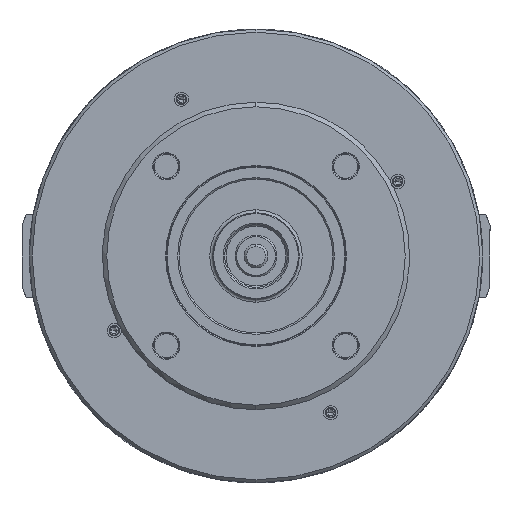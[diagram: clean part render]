
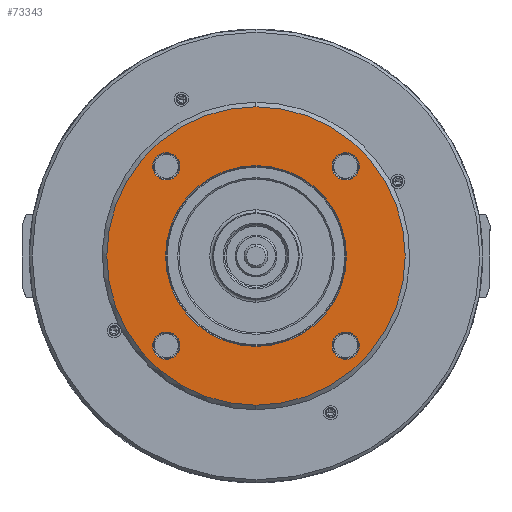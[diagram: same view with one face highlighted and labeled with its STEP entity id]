
A CAD part, left-side view. The second image highlights one B-rep face of the part: STEP entity #73343.
In plain terms, the highlighted planar face has unit normal (-1, 0, 0).
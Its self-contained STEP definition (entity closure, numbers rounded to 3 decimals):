
#168 = AXIS2_PLACEMENT_3D ( 'NONE', #29866, #53665, #28332 ) ;
#472 = DIRECTION ( 'NONE',  ( 0., 0., -1. ) ) ;
#3541 = VERTEX_POINT ( 'NONE', #17740 ) ;
#4386 = DIRECTION ( 'NONE',  ( -1., 0., 0. ) ) ;
#5233 = EDGE_LOOP ( 'NONE', ( #33444, #20236 ) ) ;
#6301 = ORIENTED_EDGE ( 'NONE', *, *, #54358, .T. ) ;
#6699 = FACE_OUTER_BOUND ( 'NONE', #5233, .T. ) ;
#7854 = VERTEX_POINT ( 'NONE', #55391 ) ;
#7970 = EDGE_CURVE ( 'NONE', #3541, #7854, #18580, .T. ) ;
#8373 = VERTEX_POINT ( 'NONE', #22458 ) ;
#8881 = AXIS2_PLACEMENT_3D ( 'NONE', #38519, #44755, #62672 ) ;
#9556 = VERTEX_POINT ( 'NONE', #75589 ) ;
#10123 = DIRECTION ( 'NONE',  ( 1., 0., 0. ) ) ;
#10261 = AXIS2_PLACEMENT_3D ( 'NONE', #39835, #4386, #44543 ) ;
#10374 = CIRCLE ( 'NONE', #45225, 9.1 ) ;
#11767 = DIRECTION ( 'NONE',  ( -1., 0., 0. ) ) ;
#11778 = FACE_BOUND ( 'NONE', #47197, .T. ) ;
#11876 = CARTESIAN_POINT ( 'NONE',  ( -110., 60.104, -60.104 ) ) ;
#12548 = CARTESIAN_POINT ( 'NONE',  ( -110., 60.104, 69.204 ) ) ;
#12978 = CIRCLE ( 'NONE', #24303, 9.1 ) ;
#13290 = EDGE_LOOP ( 'NONE', ( #18992, #6301 ) ) ;
#16316 = CARTESIAN_POINT ( 'NONE',  ( -110., 60.104, 60.104 ) ) ;
#16587 = AXIS2_PLACEMENT_3D ( 'NONE', #35947, #48403, #65922 ) ;
#17740 = CARTESIAN_POINT ( 'NONE',  ( -110., 0., 60.6 ) ) ;
#17751 = DIRECTION ( 'NONE',  ( 1., 0., 0. ) ) ;
#18240 = DIRECTION ( 'NONE',  ( 0., 0., -1. ) ) ;
#18358 = CARTESIAN_POINT ( 'NONE',  ( -110., -60.104, -60.104 ) ) ;
#18580 = CIRCLE ( 'NONE', #40964, 60.6 ) ;
#18670 = CARTESIAN_POINT ( 'NONE',  ( -110., 60.104, -60.104 ) ) ;
#18992 = ORIENTED_EDGE ( 'NONE', *, *, #59508, .T. ) ;
#20236 = ORIENTED_EDGE ( 'NONE', *, *, #57325, .F. ) ;
#21137 = DIRECTION ( 'NONE',  ( 1., 0., 0. ) ) ;
#21635 = CARTESIAN_POINT ( 'NONE',  ( -110., 0., 100. ) ) ;
#22170 = DIRECTION ( 'NONE',  ( 0., 0., 1. ) ) ;
#22458 = CARTESIAN_POINT ( 'NONE',  ( -110., -60.104, 51.004 ) ) ;
#22545 = CARTESIAN_POINT ( 'NONE',  ( -110., 0., -100. ) ) ;
#22635 = EDGE_LOOP ( 'NONE', ( #28461, #40999 ) ) ;
#22909 = ORIENTED_EDGE ( 'NONE', *, *, #47453, .T. ) ;
#23813 = FACE_BOUND ( 'NONE', #49231, .T. ) ;
#24154 = ORIENTED_EDGE ( 'NONE', *, *, #33294, .T. ) ;
#24303 = AXIS2_PLACEMENT_3D ( 'NONE', #18670, #66998, #37785 ) ;
#28098 = AXIS2_PLACEMENT_3D ( 'NONE', #47390, #17751, #35719 ) ;
#28332 = DIRECTION ( 'NONE',  ( 0., 0., 1. ) ) ;
#28461 = ORIENTED_EDGE ( 'NONE', *, *, #76540, .F. ) ;
#29810 = AXIS2_PLACEMENT_3D ( 'NONE', #37115, #43702, #67467 ) ;
#29866 = CARTESIAN_POINT ( 'NONE',  ( -110., -60.104, 60.104 ) ) ;
#29930 = DIRECTION ( 'NONE',  ( -1., 0., 0. ) ) ;
#32835 = AXIS2_PLACEMENT_3D ( 'NONE', #55099, #21137, #68684 ) ;
#33294 = EDGE_CURVE ( 'NONE', #44033, #8373, #54270, .T. ) ;
#33444 = ORIENTED_EDGE ( 'NONE', *, *, #71919, .F. ) ;
#33803 = CARTESIAN_POINT ( 'NONE',  ( -110., 60.104, -69.204 ) ) ;
#33913 = DIRECTION ( 'NONE',  ( 0., 0., -1. ) ) ;
#35719 = DIRECTION ( 'NONE',  ( 0., 0., 1. ) ) ;
#35947 = CARTESIAN_POINT ( 'NONE',  ( -110., 70.711, -70.711 ) ) ;
#36448 = CIRCLE ( 'NONE', #55083, 9.1 ) ;
#36725 = FACE_BOUND ( 'NONE', #62550, .T. ) ;
#37115 = CARTESIAN_POINT ( 'NONE',  ( -110., 0., 0. ) ) ;
#37186 = ORIENTED_EDGE ( 'NONE', *, *, #69863, .F. ) ;
#37500 = CIRCLE ( 'NONE', #168, 9.1 ) ;
#37770 = VERTEX_POINT ( 'NONE', #76326 ) ;
#37785 = DIRECTION ( 'NONE',  ( 0., 0., -1. ) ) ;
#38519 = CARTESIAN_POINT ( 'NONE',  ( -110., 0., 0. ) ) ;
#39835 = CARTESIAN_POINT ( 'NONE',  ( -110., 60.104, 60.104 ) ) ;
#40666 = VERTEX_POINT ( 'NONE', #21635 ) ;
#40964 = AXIS2_PLACEMENT_3D ( 'NONE', #62762, #10123, #33913 ) ;
#40999 = ORIENTED_EDGE ( 'NONE', *, *, #45548, .F. ) ;
#42168 = PLANE ( 'NONE',  #16587 ) ;
#42648 = DIRECTION ( 'NONE',  ( 1., 0., 0. ) ) ;
#43124 = CARTESIAN_POINT ( 'NONE',  ( -110., 60.104, 51.004 ) ) ;
#43702 = DIRECTION ( 'NONE',  ( 1., 0., 0. ) ) ;
#44033 = VERTEX_POINT ( 'NONE', #70335 ) ;
#44543 = DIRECTION ( 'NONE',  ( 0., 0., 1. ) ) ;
#44755 = DIRECTION ( 'NONE',  ( 1., 0., 0. ) ) ;
#45225 = AXIS2_PLACEMENT_3D ( 'NONE', #18358, #11767, #472 ) ;
#45548 = EDGE_CURVE ( 'NONE', #57254, #50331, #69930, .T. ) ;
#46303 = VERTEX_POINT ( 'NONE', #33803 ) ;
#46349 = DIRECTION ( 'NONE',  ( -1., 0., 0. ) ) ;
#47197 = EDGE_LOOP ( 'NONE', ( #47834, #24154 ) ) ;
#47390 = CARTESIAN_POINT ( 'NONE',  ( -110., -60.104, 60.104 ) ) ;
#47453 = EDGE_CURVE ( 'NONE', #7854, #3541, #56196, .T. ) ;
#47834 = ORIENTED_EDGE ( 'NONE', *, *, #68431, .T. ) ;
#48403 = DIRECTION ( 'NONE',  ( -1., 0., 0. ) ) ;
#48500 = DIRECTION ( 'NONE',  ( 0., 0., -1. ) ) ;
#49231 = EDGE_LOOP ( 'NONE', ( #52595, #37186 ) ) ;
#49577 = EDGE_CURVE ( 'NONE', #37770, #9556, #10374, .T. ) ;
#50331 = VERTEX_POINT ( 'NONE', #43124 ) ;
#52595 = ORIENTED_EDGE ( 'NONE', *, *, #49577, .F. ) ;
#53490 = FACE_BOUND ( 'NONE', #22635, .T. ) ;
#53503 = CIRCLE ( 'NONE', #29810, 100. ) ;
#53665 = DIRECTION ( 'NONE',  ( 1., 0., 0. ) ) ;
#54270 = CIRCLE ( 'NONE', #28098, 9.1 ) ;
#54358 = EDGE_CURVE ( 'NONE', #46303, #68580, #69221, .T. ) ;
#55083 = AXIS2_PLACEMENT_3D ( 'NONE', #59583, #29930, #18240 ) ;
#55099 = CARTESIAN_POINT ( 'NONE',  ( -110., 0., 0. ) ) ;
#55391 = CARTESIAN_POINT ( 'NONE',  ( -110., 0., -60.6 ) ) ;
#56196 = CIRCLE ( 'NONE', #8881, 60.6 ) ;
#57254 = VERTEX_POINT ( 'NONE', #12548 ) ;
#57325 = EDGE_CURVE ( 'NONE', #40666, #63207, #53503, .T. ) ;
#59508 = EDGE_CURVE ( 'NONE', #68580, #46303, #12978, .T. ) ;
#59583 = CARTESIAN_POINT ( 'NONE',  ( -110., -60.104, -60.104 ) ) ;
#60205 = ORIENTED_EDGE ( 'NONE', *, *, #7970, .T. ) ;
#62550 = EDGE_LOOP ( 'NONE', ( #60205, #22909 ) ) ;
#62672 = DIRECTION ( 'NONE',  ( 0., 0., -1. ) ) ;
#62762 = CARTESIAN_POINT ( 'NONE',  ( -110., 0., 0. ) ) ;
#63207 = VERTEX_POINT ( 'NONE', #22545 ) ;
#63625 = CARTESIAN_POINT ( 'NONE',  ( -110., 60.104, -51.004 ) ) ;
#64290 = CIRCLE ( 'NONE', #71724, 9.1 ) ;
#65146 = FACE_BOUND ( 'NONE', #13290, .T. ) ;
#65922 = DIRECTION ( 'NONE',  ( 0., 0., 1. ) ) ;
#66416 = CIRCLE ( 'NONE', #32835, 100. ) ;
#66998 = DIRECTION ( 'NONE',  ( 1., 0., 0. ) ) ;
#67467 = DIRECTION ( 'NONE',  ( 0., 0., -1. ) ) ;
#68431 = EDGE_CURVE ( 'NONE', #8373, #44033, #37500, .T. ) ;
#68580 = VERTEX_POINT ( 'NONE', #63625 ) ;
#68684 = DIRECTION ( 'NONE',  ( 0., 0., -1. ) ) ;
#69221 = CIRCLE ( 'NONE', #75445, 9.1 ) ;
#69863 = EDGE_CURVE ( 'NONE', #9556, #37770, #36448, .T. ) ;
#69930 = CIRCLE ( 'NONE', #10261, 9.1 ) ;
#70335 = CARTESIAN_POINT ( 'NONE',  ( -110., -60.104, 69.204 ) ) ;
#71724 = AXIS2_PLACEMENT_3D ( 'NONE', #16316, #46349, #22170 ) ;
#71919 = EDGE_CURVE ( 'NONE', #63207, #40666, #66416, .T. ) ;
#73343 = ADVANCED_FACE ( 'NONE', ( #36725, #6699, #65146, #23813, #53490, #11778 ), #42168, .T. ) ;
#75445 = AXIS2_PLACEMENT_3D ( 'NONE', #11876, #42648, #48500 ) ;
#75589 = CARTESIAN_POINT ( 'NONE',  ( -110., -60.104, -69.204 ) ) ;
#76326 = CARTESIAN_POINT ( 'NONE',  ( -110., -60.104, -51.004 ) ) ;
#76540 = EDGE_CURVE ( 'NONE', #50331, #57254, #64290, .T. ) ;
